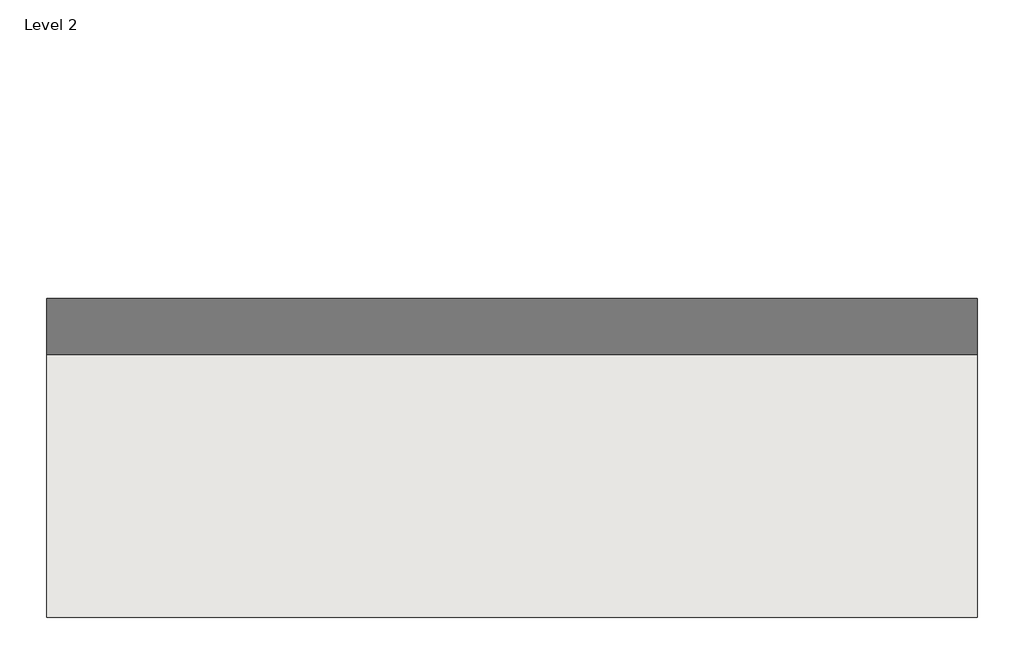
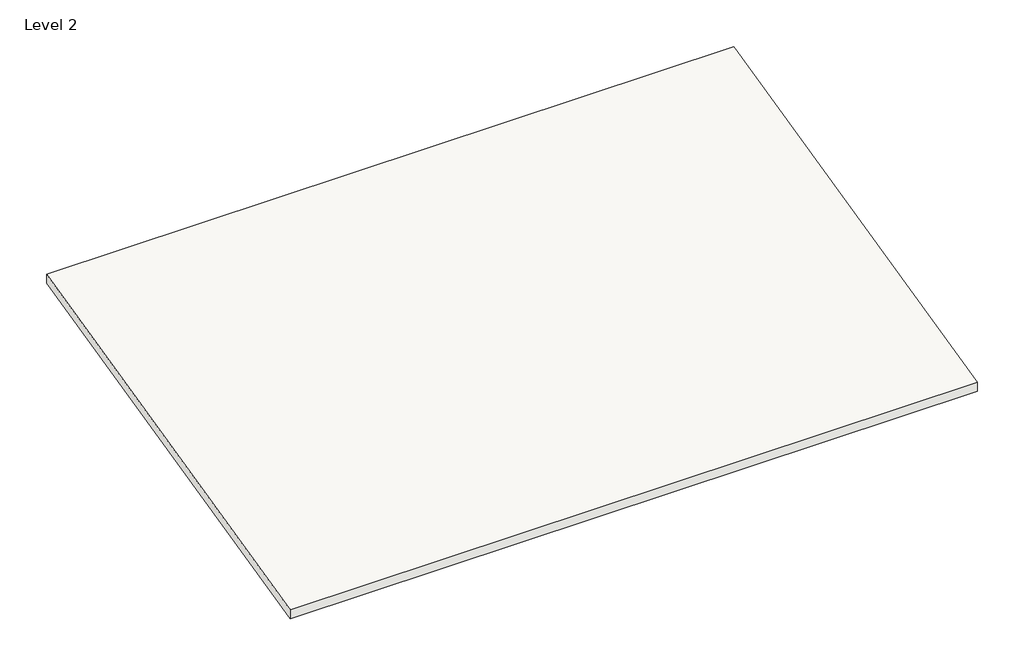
# One storey: 1 roof.
"""IFC4 building model written with IfcOpenShell, lengths in millimetres."""

import ifcopenshell
import ifcopenshell.guid

model = None  # the IFC model being written
_history = None  # IfcOwnerHistory: only IFC2X3 demands one
_inside = {}  # id of a spatial element -> (the spatial element, [elements in it])
_under = {}  # id of a project, library or spatial element -> (it, [spatial elements below it])
_declared = {}  # id of a project -> (the project, [libraries it declares])
_typed = {}  # id of a type object -> (the type object, [elements of that type])
_made_of = {}  # id of a material, layer set ... -> (it, [elements and type objects made of it])


def new_model(schema):
    """Start an empty IFC model of exactly this schema.

    Asked for "IFC4X3", IfcOpenShell would pick the latest addendum, in which some entities
    have other attributes; the version numbers below select the first issue.
    IFC2X3 requires an IfcOwnerHistory on every rooted entity: one is made here for all.
    """
    global model, _history
    if schema == "IFC4X3":
        model = ifcopenshell.file(schema_version=(4, 3, 0, 0))
    else:
        model = ifcopenshell.file(schema=schema)
    _inside.clear()
    _under.clear()
    _declared.clear()
    _typed.clear()
    _made_of.clear()
    _history = None
    if model.schema == "IFC2X3":
        org = make("IfcOrganization", Name="unknown")
        user = make(
            "IfcPersonAndOrganization",
            ThePerson=make("IfcPerson", FamilyName="unknown"),
            TheOrganization=org,
        )
        app = make(
            "IfcApplication",
            ApplicationDeveloper=org,
            Version="unknown",
            ApplicationFullName="unknown",
            ApplicationIdentifier="unknown",
        )
        _history = make(
            "IfcOwnerHistory",
            OwningUser=user,
            OwningApplication=app,
            ChangeAction="ADDED",
            CreationDate=0,
        )
    return model


def make(cls, **values):
    """One entity of the class cls with the attributes given. An attribute that is None is left unset."""
    return model.create_entity(
        cls, **{name: value for name, value in values.items() if value is not None}
    )


def rooted(cls, **values):
    """An entity with a GlobalId (a new one), such as an element, a storey or a relation."""
    return make(cls, GlobalId=ifcopenshell.guid.new(), OwnerHistory=_history, **values)


def si_unit(unit_type, name, prefix=None):
    """IfcSIUnit, for example si_unit("LENGTHUNIT", "METRE", prefix="MILLI")."""
    return make("IfcSIUnit", UnitType=unit_type, Prefix=prefix, Name=name)


def assignment(units):
    """IfcUnitAssignment: the units of a project."""
    return None if units is None else make("IfcUnitAssignment", Units=units)


def point(xyz):
    """IfcCartesianPoint."""
    return None if xyz is None else make("IfcCartesianPoint", Coordinates=xyz)


def direction(xyz):
    """IfcDirection."""
    return None if xyz is None else make("IfcDirection", DirectionRatios=xyz)


def frame(location, z_axis=None, x_axis=None):
    """IfcAxis2Placement3D, a coordinate frame: its origin and axes. An axis left out is left unset."""
    return make(
        "IfcAxis2Placement3D",
        Location=point(location),
        Axis=direction(z_axis),
        RefDirection=direction(x_axis),
    )


def origin():
    """The frame at (0, 0, 0) with its axes left unset."""
    return frame((0.0, 0.0, 0.0))


def place(relative_to, where):
    """IfcLocalPlacement: puts the frame where relative to a parent placement (None: the world)."""
    return make(
        "IfcLocalPlacement", PlacementRelTo=relative_to, RelativePlacement=where
    )


def context(
    kind, dimensions, precision=None, world=None, true_north=None, identifier=None
):
    """IfcGeometricRepresentationContext, for example the 3D "Model" context."""
    return make(
        "IfcGeometricRepresentationContext",
        ContextIdentifier=identifier,
        ContextType=kind,
        CoordinateSpaceDimension=dimensions,
        Precision=precision,
        WorldCoordinateSystem=world,
        TrueNorth=true_north,
    )


def project(units=None, contexts=None):
    """IfcProject with its units and contexts."""
    return rooted(
        "IfcProject",
        Name="project",
        RepresentationContexts=contexts,
        UnitsInContext=assignment(units),
    )


def spatial(cls, under=None, at=None, **own):
    """A site, building, storey or space (cls), placed at a placement, below another one or the project."""
    s = rooted(cls, ObjectPlacement=at, **own)
    if under is not None:
        _under.setdefault(under.id(), (under, []))[1].append(s)
    return s


def polyline(points):
    """IfcPolyline through the points."""
    return make("IfcPolyline", Points=[point(p) for p in points])


def outline(outer, holes=None, kind="AREA"):
    """IfcArbitraryClosedProfileDef: a profile drawn as a closed curve; with holes, ...WithVoids."""
    if holes is None:
        return make("IfcArbitraryClosedProfileDef", ProfileType=kind, OuterCurve=outer)
    return make(
        "IfcArbitraryProfileDefWithVoids",
        ProfileType=kind,
        OuterCurve=outer,
        InnerCurves=holes,
    )


def extrude(swept, where, along, depth):
    """IfcExtrudedAreaSolid: the profile swept, set in the frame where, extruded along a direction by depth."""
    return make(
        "IfcExtrudedAreaSolid",
        SweptArea=swept,
        Position=where,
        ExtrudedDirection=direction(along),
        Depth=depth,
    )


def shape(context_of_items, identifier, shape_type, items):
    """IfcShapeRepresentation: the items that make up one representation, for example the "Body"."""
    return make(
        "IfcShapeRepresentation",
        ContextOfItems=context_of_items,
        RepresentationIdentifier=identifier,
        RepresentationType=shape_type,
        Items=items,
    )


def made_of(thing, what):
    """Note that an element or type object is made of a material, layer set ...; save() writes the relation."""
    if what is not None:
        _made_of.setdefault(what.id(), (what, []))[1].append(thing)
    return thing


def element(
    cls,
    number,
    at=None,
    inside=None,
    cuts=None,
    type_object=None,
    material=None,
    context=None,
    identifier="Body",
    shape_type=None,
    held_by="IfcProductDefinitionShape",
    body=None,
    shapes=None,
    **own,
):
    """One element of the class cls, such as IfcWall. Its Tag is "e" and its number.

    at: its placement. inside: the storey or other place that contains it. cuts: it is an
    opening in that element (IfcRelVoidsElement). A single representation is given by context,
    identifier, shape_type and body (its items); several are given by shapes. held_by: the class
    of the entity that holds the representations. save() writes the other relations.
    """
    e = rooted(cls, Tag="e%d" % number, ObjectPlacement=at, **own)
    if body is not None:
        shapes = [shape(context, identifier, shape_type, body)]
    if shapes is not None:
        e.Representation = make(held_by, Representations=shapes)
    if inside is not None:
        _inside.setdefault(inside.id(), (inside, []))[1].append(e)
    if cuts is not None:
        rooted(
            "IfcRelVoidsElement", RelatingBuildingElement=cuts, RelatedOpeningElement=e
        )
    if type_object is not None:
        _typed.setdefault(type_object.id(), (type_object, []))[1].append(e)
    return made_of(e, material)


def aggregate(whole, parts):
    """IfcRelAggregates: a whole, such as a stair, and the parts it consists of."""
    return rooted("IfcRelAggregates", RelatingObject=whole, RelatedObjects=parts)


def save(model, path):
    """Write the relations noted so far, then the file.

    IfcRelAggregates (storeys below a building ...), IfcRelContainedInSpatialStructure (elements
    in a storey), IfcRelDefinesByType, IfcRelAssociatesMaterial and IfcRelDeclares: one each for
    every whole, place, type object, material and project.
    """
    for whole, parts in _under.values():
        aggregate(whole, parts)
    for where, things in _inside.values():
        rooted(
            "IfcRelContainedInSpatialStructure",
            RelatedElements=things,
            RelatingStructure=where,
        )
    for kind, things in _typed.values():
        rooted("IfcRelDefinesByType", RelatedObjects=things, RelatingType=kind)
    for what, things in _made_of.values():
        rooted("IfcRelAssociatesMaterial", RelatedObjects=things, RelatingMaterial=what)
    for by, libraries in _declared.values():
        rooted("IfcRelDeclares", RelatingContext=by, RelatedDefinitions=libraries)
    model.write(path)


model = new_model("IFC4")

# Units and contexts
model_context = context("Model", 3, world=origin())
ifc_project = project(units=[si_unit("LENGTHUNIT", "METRE", prefix="MILLI")], contexts=[model_context])

# Site, building, storey
site = spatial("IfcSite", under=ifc_project)
building = spatial("IfcBuilding", under=site)
storey = spatial("IfcBuildingStorey", under=building, Name="Level 2", Elevation=3048.0)

# Roof
placement = place(None, origin())
element("IfcRoof", 1, ObjectType="Generic - 9\"", at=placement, inside=storey, context=model_context, shape_type="SweptSolid", body=[
    extrude(outline(polyline([(-2775.3877516, 3151.6038106), (7384.6122484, 5537.3100096), (7384.6122484, 5302.492358), (-2775.3877516, 2916.7861591), (-2775.3877516, 3151.6038106)])), frame((-8002.5466991, 0.0, 0.0), z_axis=(1.0, 0.0, 0.0), x_axis=(0.0, 1.0, 0.0)), (0.0, 0.0, 1.0), 16560.8),
])

save(model, "model.ifc")
